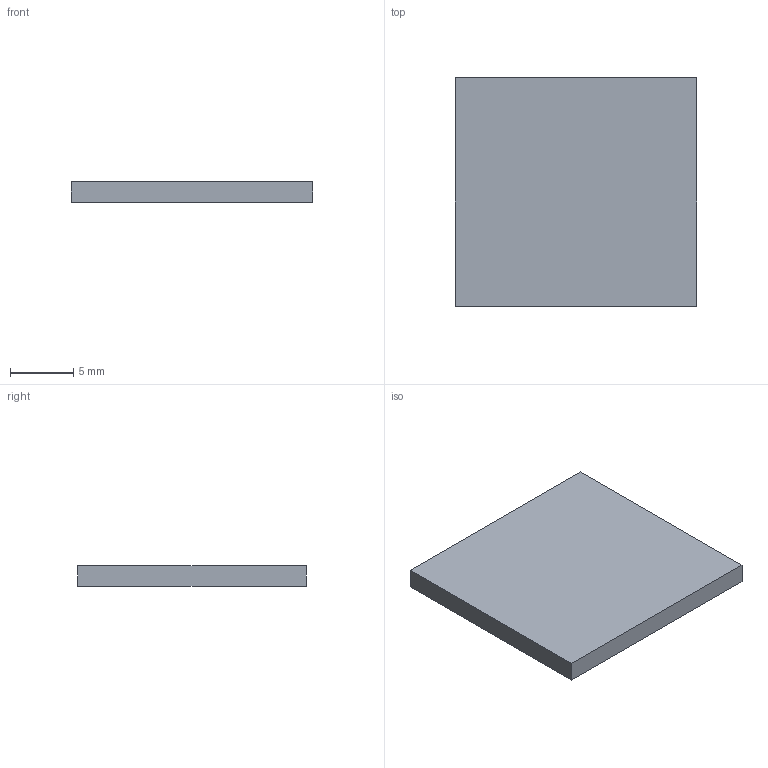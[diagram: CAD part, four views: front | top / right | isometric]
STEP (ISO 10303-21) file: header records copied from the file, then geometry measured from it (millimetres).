
FILE_DESCRIPTION(('Open CASCADE Model'),'2;1');
FILE_NAME('Open CASCADE Shape Model','2026-09-29T12:47:59',('Author'),( 'Open CASCADE'),'Open CASCADE STEP processor 7.9','Open CASCADE 7.9' ,'Unknown');
FILE_SCHEMA(('AUTOMOTIVE_DESIGN { 1 0 10303 214 1 1 1 1 }'));
Length unit declared in the file: millimetre
Products named in the file (1): Open CASCADE STEP translator 7.9 3
Bounding box: 19 x 18 x 1.6 mm (x, y, z)
Volume: 547.2 mm3; surface area: 802.4 mm2
Topology: 1 solids, 1 shells, 6 faces, 12 edges, 8 vertices
Faces by surface type: plane 6
Entity records: 322 total; most frequent: CARTESIAN_POINT 51, DIRECTION 50, LINE 36, VECTOR 36, ORIENTED_EDGE 24, PCURVE 24, DEFINITIONAL_REPRESENTATION 24, EDGE_CURVE 12
